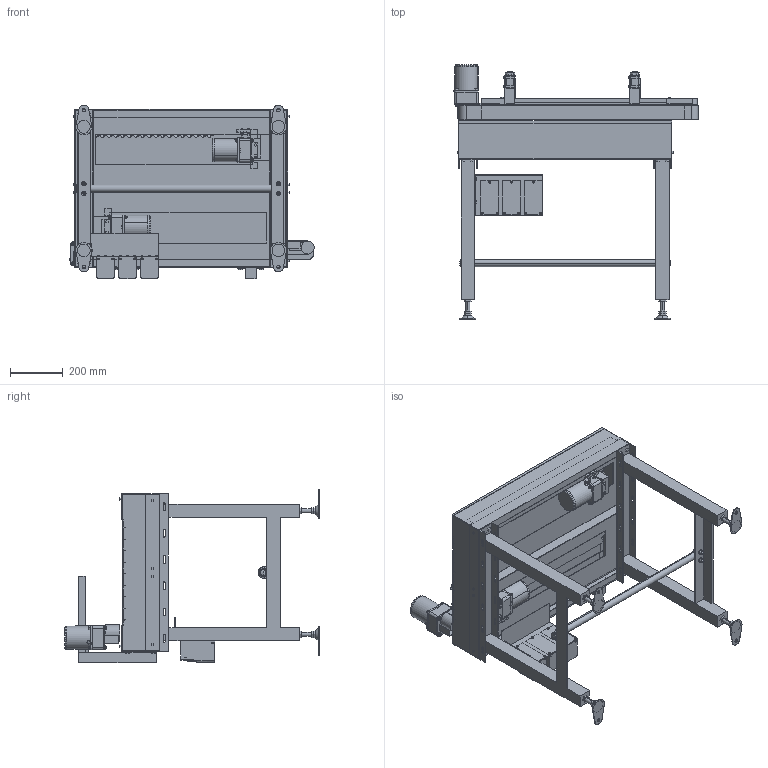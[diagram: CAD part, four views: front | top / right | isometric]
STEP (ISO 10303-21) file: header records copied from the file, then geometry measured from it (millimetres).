
FILE_DESCRIPTION( (''), '2;1');
FILE_NAME ('SGA-304x3-400-R-IVH-15-C.stp','2025-01-31T09:20:23',(''),(''),'spGate 20.6.2 (****-****-****-****)','','');
FILE_SCHEMA (('AUTOMOTIVE_DESIGN'));
Length unit declared in the file: millimetre
Products named in the file (91): NewModel; TEMP_X_T-prt0; TEMP_X_T-prt1; TEMP_X_T-prt2; TEMP_X_T-prt3; TEMP_X_T-prt4; TEMP_X_T-prt5; TEMP_X_T-prt6; TEMP_X_T-prt7; TEMP_X_T-prt8; TEMP_X_T-prt9; TEMP_X_T-prt10; TEMP_X_T-prt11; TEMP_X_T-prt12; TEMP_X_T-prt13; TEMP_X_T-prt14; TEMP_X_T-prt15; TEMP_X_T-prt16; TEMP_X_T-prt17; TEMP_X_T-prt18; TEMP_X_T-prt19; TEMP_X_T-prt20; TEMP_X_T-prt21; TEMP_X_T-prt22; TEMP_X_T-prt23; TEMP_X_T-prt24; TEMP_X_T-prt25; TEMP_X_T-prt26; TEMP_X_T-prt27; TEMP_X_T-prt28; TEMP_X_T-prt29; TEMP_X_T-prt30; TEMP_X_T-prt31; TEMP_X_T-prt32; TEMP_X_T-prt33; TEMP_X_T-prt34; TEMP_X_T-prt35; TEMP_X_T-prt36; TEMP_X_T-prt37; TEMP_X_T-prt38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
Assembly tree (90 placements, depth 2):
  NewModel
    TEMP_X_T-prt0
    TEMP_X_T-prt1
    TEMP_X_T-prt2
    TEMP_X_T-prt3
    TEMP_X_T-prt4
    TEMP_X_T-prt5
    TEMP_X_T-prt6
    TEMP_X_T-prt7
    TEMP_X_T-prt8
    TEMP_X_T-prt9
    TEMP_X_T-prt10
    TEMP_X_T-prt11
    TEMP_X_T-prt12
    TEMP_X_T-prt13
    TEMP_X_T-prt14
    TEMP_X_T-prt15
    TEMP_X_T-prt16
    TEMP_X_T-prt17
    TEMP_X_T-prt18
    TEMP_X_T-prt19
    TEMP_X_T-prt20
    TEMP_X_T-prt21
    TEMP_X_T-prt22
    TEMP_X_T-prt23
    TEMP_X_T-prt24
    TEMP_X_T-prt25
    TEMP_X_T-prt26
    TEMP_X_T-prt27
    TEMP_X_T-prt28
    TEMP_X_T-prt29
    TEMP_X_T-prt30
    TEMP_X_T-prt31
    TEMP_X_T-prt32
    TEMP_X_T-prt33
    TEMP_X_T-prt34
    TEMP_X_T-prt35
    TEMP_X_T-prt36
    TEMP_X_T-prt37
    TEMP_X_T-prt38
    TEMP_X_T-prt39
    TEMP_X_T-prt40
    TEMP_X_T-prt41
    TEMP_X_T-prt42
    TEMP_X_T-prt43
    TEMP_X_T-prt44
    TEMP_X_T-prt45
    TEMP_X_T-prt46
    TEMP_X_T-prt47
    TEMP_X_T-prt48
    TEMP_X_T-prt49
    TEMP_X_T-prt50
    TEMP_X_T-prt51
    TEMP_X_T-prt52
    TEMP_X_T-prt53
    TEMP_X_T-prt54
    TEMP_X_T-prt55
    TEMP_X_T-prt56
    TEMP_X_T-prt57
    TEMP_X_T-prt58
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Bounding box: 929.26 x 969.4 x 660 mm (x, y, z)
Volume: 24488995.7 mm3; surface area: 5507058.3 mm2
Topology: 90 solids, 90 shells, 3255 faces, 8046 edges, 5144 vertices
Faces by surface type: plane 2146, cylinder 750, bspline 343, sphere 16
Entity records: 167026 total; most frequent: CARTESIAN_POINT 24050, ORIENTED_EDGE 16004, DIRECTION 15041, COLOUR_RGB 11347, PRESENTATION_STYLE_ASSIGNMENT 11347, STYLED_ITEM 11347, EDGE_CURVE 8002, DRAUGHTING_PRE_DEFINED_CURVE_FONT 8002
